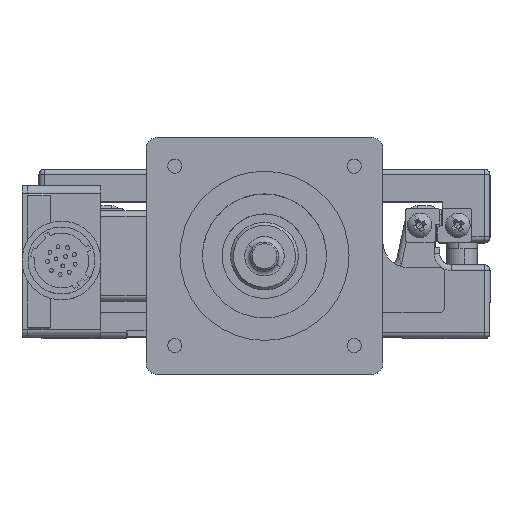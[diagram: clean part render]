
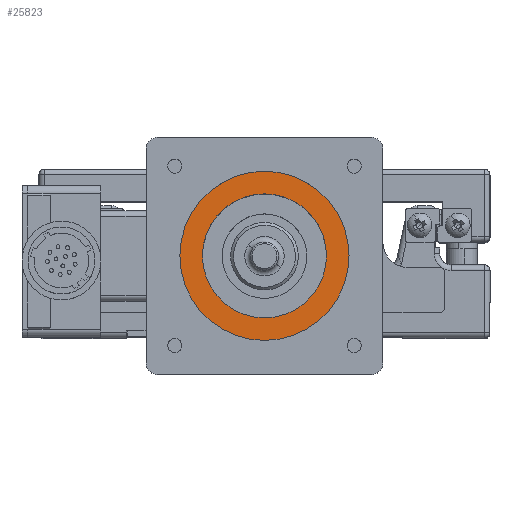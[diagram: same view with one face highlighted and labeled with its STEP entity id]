
A CAD part, top view. The second image highlights one B-rep face of the part: STEP entity #25823.
In plain terms, the highlighted planar face has unit normal (0, 0, 1).
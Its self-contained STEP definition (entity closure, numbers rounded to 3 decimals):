
#869 = AXIS2_PLACEMENT_3D ( 'NONE', #37914, #32073, #17383 ) ;
#1406 = CARTESIAN_POINT ( 'NONE',  ( -15., 14.5, 137. ) ) ;
#2245 = FACE_BOUND ( 'NONE', #23920, .T. ) ;
#2542 = ORIENTED_EDGE ( 'NONE', *, *, #43453, .T. ) ;
#5032 = CIRCLE ( 'NONE', #869, 15. ) ;
#5569 = VERTEX_POINT ( 'NONE', #34216 ) ;
#6814 = FACE_OUTER_BOUND ( 'NONE', #46375, .T. ) ;
#7093 = EDGE_CURVE ( 'NONE', #31781, #5569, #23409, .T. ) ;
#7464 = DIRECTION ( 'NONE',  ( 1., 0., 0. ) ) ;
#9653 = AXIS2_PLACEMENT_3D ( 'NONE', #38349, #47826, #28587 ) ;
#17383 = DIRECTION ( 'NONE',  ( 1., 0., 0. ) ) ;
#17918 = CARTESIAN_POINT ( 'NONE',  ( -11., 14.5, 137. ) ) ;
#21131 = DIRECTION ( 'NONE',  ( 0., 0., -1. ) ) ;
#22159 = DIRECTION ( 'NONE',  ( 0., 0., 1. ) ) ;
#23409 = CIRCLE ( 'NONE', #31704, 11. ) ;
#23920 = EDGE_LOOP ( 'NONE', ( #27367, #50392 ) ) ;
#25823 = ADVANCED_FACE ( 'NONE', ( #2245, #6814 ), #52475, .T. ) ;
#26032 = CARTESIAN_POINT ( 'NONE',  ( 0., 14.5, 137. ) ) ;
#26237 = CARTESIAN_POINT ( 'NONE',  ( 0., 14.5, 137. ) ) ;
#26738 = CARTESIAN_POINT ( 'NONE',  ( 0., 14.5, 137. ) ) ;
#27367 = ORIENTED_EDGE ( 'NONE', *, *, #37726, .T. ) ;
#28587 = DIRECTION ( 'NONE',  ( 1., 0., 0. ) ) ;
#28663 = VERTEX_POINT ( 'NONE', #1406 ) ;
#30806 = DIRECTION ( 'NONE',  ( 0., 0., -1. ) ) ;
#31704 = AXIS2_PLACEMENT_3D ( 'NONE', #26237, #30806, #46135 ) ;
#31781 = VERTEX_POINT ( 'NONE', #17918 ) ;
#32073 = DIRECTION ( 'NONE',  ( 0., 0., 1. ) ) ;
#34216 = CARTESIAN_POINT ( 'NONE',  ( 11., 14.5, 137. ) ) ;
#35126 = CIRCLE ( 'NONE', #53841, 11. ) ;
#37726 = EDGE_CURVE ( 'NONE', #5569, #31781, #35126, .T. ) ;
#37914 = CARTESIAN_POINT ( 'NONE',  ( 0., 14.5, 137. ) ) ;
#38349 = CARTESIAN_POINT ( 'NONE',  ( 0., 14.5, 137. ) ) ;
#39006 = EDGE_CURVE ( 'NONE', #57925, #28663, #5032, .T. ) ;
#43453 = EDGE_CURVE ( 'NONE', #28663, #57925, #47314, .T. ) ;
#46135 = DIRECTION ( 'NONE',  ( 1., 0., 0. ) ) ;
#46375 = EDGE_LOOP ( 'NONE', ( #53062, #2542 ) ) ;
#47314 = CIRCLE ( 'NONE', #9653, 15. ) ;
#47826 = DIRECTION ( 'NONE',  ( 0., 0., 1. ) ) ;
#50392 = ORIENTED_EDGE ( 'NONE', *, *, #7093, .T. ) ;
#51265 = AXIS2_PLACEMENT_3D ( 'NONE', #26738, #22159, #7464 ) ;
#52475 = PLANE ( 'NONE',  #51265 ) ;
#53062 = ORIENTED_EDGE ( 'NONE', *, *, #39006, .T. ) ;
#53841 = AXIS2_PLACEMENT_3D ( 'NONE', #26032, #21131, #60922 ) ;
#57925 = VERTEX_POINT ( 'NONE', #63294 ) ;
#60922 = DIRECTION ( 'NONE',  ( 1., 0., 0. ) ) ;
#63294 = CARTESIAN_POINT ( 'NONE',  ( 15., 14.5, 137. ) ) ;
